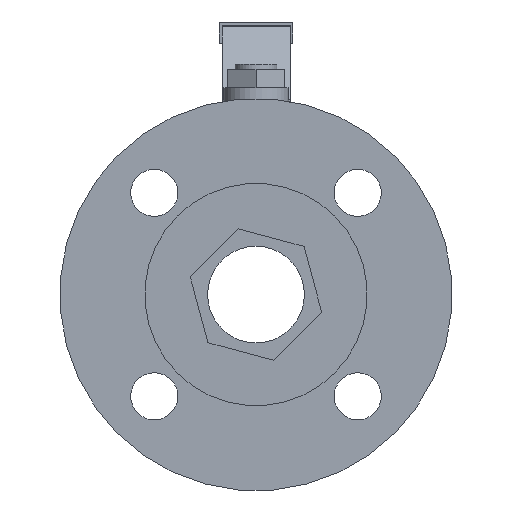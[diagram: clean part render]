
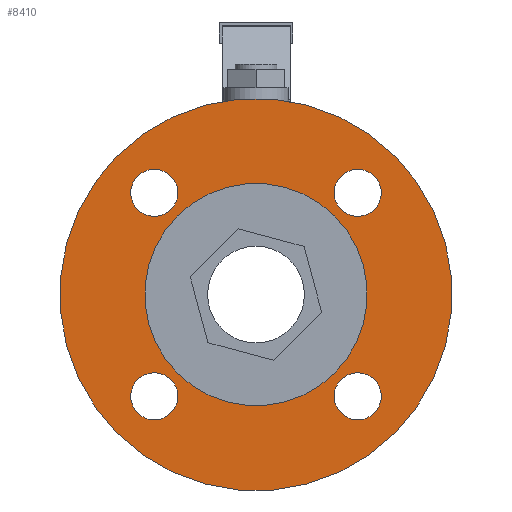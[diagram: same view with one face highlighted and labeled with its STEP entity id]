
A CAD part, front view. The second image highlights one B-rep face of the part: STEP entity #8410.
In plain terms, the highlighted planar face has unit normal (0, -1, 0).
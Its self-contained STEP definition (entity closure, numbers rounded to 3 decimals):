
#8410=ADVANCED_FACE('',(#27157,#27159,#27161,#27163,#27165,#27167),#27169,.T.);
#27157=FACE_BOUND('',#27158,.T.);
#27158=EDGE_LOOP('',(#42160));
#27159=FACE_BOUND('',#27160,.T.);
#27160=EDGE_LOOP('',(#42161));
#27161=FACE_BOUND('',#27162,.T.);
#27162=EDGE_LOOP('',(#42162));
#27163=FACE_BOUND('',#27164,.T.);
#27164=EDGE_LOOP('',(#42163));
#27165=FACE_BOUND('',#27166,.T.);
#27166=EDGE_LOOP('',(#42164,#42165));
#27167=FACE_BOUND('',#27168,.T.);
#27168=EDGE_LOOP('',(#42166));
#27169=PLANE('',#27170);
#27170=AXIS2_PLACEMENT_3D('',#27171,#27172,#27173);
#27171=CARTESIAN_POINT('',(4943.459,1071.891,-193.081));
#27172=DIRECTION('',(0.,-1.,0.));
#27173=DIRECTION('',(-0.707,0.,-0.707));
#42160=ORIENTED_EDGE('',*,*,#52768,.T.);
#42161=ORIENTED_EDGE('',*,*,#52743,.T.);
#42162=ORIENTED_EDGE('',*,*,#52744,.T.);
#42163=ORIENTED_EDGE('',*,*,#52745,.T.);
#42164=ORIENTED_EDGE('',*,*,#52764,.T.);
#42165=ORIENTED_EDGE('',*,*,#52765,.T.);
#42166=ORIENTED_EDGE('',*,*,#52742,.T.);
#52742=EDGE_CURVE('',#61141,#61141,#61142,.T.);
#52743=EDGE_CURVE('',#61143,#61143,#61144,.T.);
#52744=EDGE_CURVE('',#61145,#61145,#61146,.T.);
#52745=EDGE_CURVE('',#61147,#61147,#61148,.T.);
#52764=EDGE_CURVE('',#61179,#61180,#61181,.T.);
#52765=EDGE_CURVE('',#61180,#61179,#61182,.T.);
#52768=EDGE_CURVE('',#61187,#61187,#61188,.T.);
#61141=VERTEX_POINT('',#78329);
#61142=CIRCLE('',#78330,9.);
#61143=VERTEX_POINT('',#78334);
#61144=CIRCLE('',#78335,9.);
#61145=VERTEX_POINT('',#78339);
#61146=CIRCLE('',#78340,9.);
#61147=VERTEX_POINT('',#78344);
#61148=CIRCLE('',#78345,9.);
#61179=VERTEX_POINT('',#78415);
#61180=VERTEX_POINT('',#78416);
#61181=CIRCLE('',#78417,42.5);
#61182=CIRCLE('',#78421,42.5);
#61187=VERTEX_POINT('',#78435);
#61188=CIRCLE('',#78436,75.);
#78329=CARTESIAN_POINT('',(4988.714,1071.891,-147.826));
#78330=AXIS2_PLACEMENT_3D('',#78331,#78332,#78333);
#78331=CARTESIAN_POINT('',(4982.35,1071.891,-154.19));
#78332=DIRECTION('',(0.,1.,0.));
#78333=DIRECTION('',(0.707,0.,0.707));
#78334=CARTESIAN_POINT('',(4910.932,1071.891,-147.826));
#78335=AXIS2_PLACEMENT_3D('',#78336,#78337,#78338);
#78336=CARTESIAN_POINT('',(4904.568,1071.891,-154.19));
#78337=DIRECTION('',(0.,1.,0.));
#78338=DIRECTION('',(0.707,0.,0.707));
#78339=CARTESIAN_POINT('',(4910.932,1071.891,-225.608));
#78340=AXIS2_PLACEMENT_3D('',#78341,#78342,#78343);
#78341=CARTESIAN_POINT('',(4904.568,1071.891,-231.972));
#78342=DIRECTION('',(0.,1.,0.));
#78343=DIRECTION('',(0.707,0.,0.707));
#78344=CARTESIAN_POINT('',(4988.714,1071.891,-225.608));
#78345=AXIS2_PLACEMENT_3D('',#78346,#78347,#78348);
#78346=CARTESIAN_POINT('',(4982.35,1071.891,-231.972));
#78347=DIRECTION('',(0.,1.,0.));
#78348=DIRECTION('',(0.707,0.,0.707));
#78415=CARTESIAN_POINT('',(4913.407,1071.891,-223.133));
#78416=CARTESIAN_POINT('',(4973.511,1071.891,-163.029));
#78417=AXIS2_PLACEMENT_3D('',#78418,#78419,#78420);
#78418=CARTESIAN_POINT('',(4943.459,1071.891,-193.081));
#78419=DIRECTION('',(0.,1.,0.));
#78420=DIRECTION('',(-0.707,0.,-0.707));
#78421=AXIS2_PLACEMENT_3D('',#78422,#78423,#78424);
#78422=CARTESIAN_POINT('',(4943.459,1071.891,-193.081));
#78423=DIRECTION('',(0.,1.,0.));
#78424=DIRECTION('',(0.707,0.,0.707));
#78435=CARTESIAN_POINT('',(4890.426,1071.891,-246.114));
#78436=AXIS2_PLACEMENT_3D('',#78437,#78438,#78439);
#78437=CARTESIAN_POINT('',(4943.459,1071.891,-193.081));
#78438=DIRECTION('',(0.,-1.,0.));
#78439=DIRECTION('',(-0.707,0.,-0.707));
